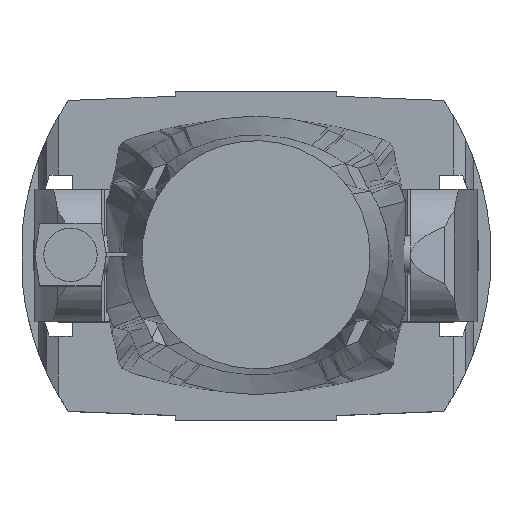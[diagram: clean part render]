
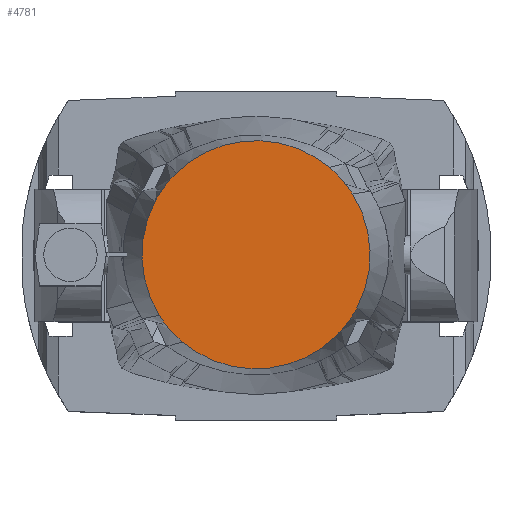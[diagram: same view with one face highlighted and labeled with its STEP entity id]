
A CAD part, top view. The second image highlights one B-rep face of the part: STEP entity #4781.
In plain terms, the highlighted planar face has unit normal (0, 0, 1).
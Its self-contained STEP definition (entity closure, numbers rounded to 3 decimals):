
#534=CIRCLE('',#5167,117.64);
#535=CIRCLE('',#5168,117.64);
#536=CIRCLE('',#5169,117.64);
#537=CIRCLE('',#5170,117.64);
#539=CIRCLE('',#5172,117.64);
#540=CIRCLE('',#5173,117.64);
#541=CIRCLE('',#5174,117.64);
#542=CIRCLE('',#5175,117.64);
#543=CIRCLE('',#5176,117.64);
#544=CIRCLE('',#5177,117.64);
#545=CIRCLE('',#5178,117.64);
#546=CIRCLE('',#5179,117.64);
#1732=ORIENTED_EDGE('',*,*,#2536,.T.);
#1733=ORIENTED_EDGE('',*,*,#2534,.T.);
#1734=ORIENTED_EDGE('',*,*,#2532,.T.);
#1735=ORIENTED_EDGE('',*,*,#2530,.T.);
#1736=ORIENTED_EDGE('',*,*,#2528,.T.);
#1737=ORIENTED_EDGE('',*,*,#2526,.T.);
#1738=ORIENTED_EDGE('',*,*,#2524,.T.);
#1739=ORIENTED_EDGE('',*,*,#2521,.T.);
#1740=ORIENTED_EDGE('',*,*,#2518,.T.);
#1741=ORIENTED_EDGE('',*,*,#2516,.T.);
#1742=ORIENTED_EDGE('',*,*,#2514,.T.);
#1743=ORIENTED_EDGE('',*,*,#2511,.T.);
#2511=EDGE_CURVE('',#2999,#3000,#534,.F.);
#2514=EDGE_CURVE('',#3001,#2999,#535,.F.);
#2516=EDGE_CURVE('',#3002,#3001,#536,.F.);
#2518=EDGE_CURVE('',#3003,#3002,#537,.F.);
#2521=EDGE_CURVE('',#3005,#3003,#539,.F.);
#2524=EDGE_CURVE('',#3006,#3005,#540,.F.);
#2526=EDGE_CURVE('',#3007,#3006,#541,.F.);
#2528=EDGE_CURVE('',#3008,#3007,#542,.F.);
#2530=EDGE_CURVE('',#3009,#3008,#543,.F.);
#2532=EDGE_CURVE('',#3010,#3009,#544,.F.);
#2534=EDGE_CURVE('',#3011,#3010,#545,.F.);
#2536=EDGE_CURVE('',#3000,#3011,#546,.F.);
#2999=VERTEX_POINT('',#8706);
#3000=VERTEX_POINT('',#8707);
#3001=VERTEX_POINT('',#8721);
#3002=VERTEX_POINT('',#8733);
#3003=VERTEX_POINT('',#8773);
#3005=VERTEX_POINT('',#8787);
#3006=VERTEX_POINT('',#8800);
#3007=VERTEX_POINT('',#8840);
#3008=VERTEX_POINT('',#8852);
#3009=VERTEX_POINT('',#8864);
#3010=VERTEX_POINT('',#8904);
#3011=VERTEX_POINT('',#8916);
#4007=EDGE_LOOP('',(#1732,#1733,#1734,#1735,#1736,#1737,#1738,#1739,#1740,
#1741,#1742,#1743));
#4358=FACE_BOUND('',#4007,.T.);
#4500=PLANE('',#5180);
#4781=ADVANCED_FACE('',(#4358),#4500,.F.);
#5167=AXIS2_PLACEMENT_3D('',#8705,#6115,#6116);
#5168=AXIS2_PLACEMENT_3D('',#8720,#6117,#6118);
#5169=AXIS2_PLACEMENT_3D('',#8732,#6119,#6120);
#5170=AXIS2_PLACEMENT_3D('',#8772,#6121,#6122);
#5172=AXIS2_PLACEMENT_3D('',#8786,#6125,#6126);
#5173=AXIS2_PLACEMENT_3D('',#8799,#6128,#6129);
#5174=AXIS2_PLACEMENT_3D('',#8839,#6130,#6131);
#5175=AXIS2_PLACEMENT_3D('',#8851,#6132,#6133);
#5176=AXIS2_PLACEMENT_3D('',#8863,#6134,#6135);
#5177=AXIS2_PLACEMENT_3D('',#8903,#6136,#6137);
#5178=AXIS2_PLACEMENT_3D('',#8915,#6138,#6139);
#5179=AXIS2_PLACEMENT_3D('',#8927,#6140,#6141);
#5180=AXIS2_PLACEMENT_3D('',#8928,#6142,#6143);
#6115=DIRECTION('',(0.,0.,-1.));
#6116=DIRECTION('',(1.,0.,0.));
#6117=DIRECTION('',(0.,0.,-1.));
#6118=DIRECTION('',(1.,0.,0.));
#6119=DIRECTION('',(0.,0.,-1.));
#6120=DIRECTION('',(1.,0.,0.));
#6121=DIRECTION('',(0.,0.,-1.));
#6122=DIRECTION('',(1.,0.,0.));
#6125=DIRECTION('',(0.,0.,-1.));
#6126=DIRECTION('',(1.,0.,0.));
#6128=DIRECTION('',(0.,0.,-1.));
#6129=DIRECTION('',(1.,0.,0.));
#6130=DIRECTION('',(0.,0.,-1.));
#6131=DIRECTION('',(1.,0.,0.));
#6132=DIRECTION('',(0.,0.,-1.));
#6133=DIRECTION('',(1.,0.,0.));
#6134=DIRECTION('',(0.,0.,-1.));
#6135=DIRECTION('',(1.,0.,0.));
#6136=DIRECTION('',(0.,0.,-1.));
#6137=DIRECTION('',(1.,0.,0.));
#6138=DIRECTION('',(0.,0.,-1.));
#6139=DIRECTION('',(1.,0.,0.));
#6140=DIRECTION('',(0.,0.,-1.));
#6141=DIRECTION('',(1.,0.,0.));
#6142=DIRECTION('',(0.,0.,-1.));
#6143=DIRECTION('',(-1.,0.,0.));
#8705=CARTESIAN_POINT('',(0.,0.,792.586));
#8706=CARTESIAN_POINT('',(-90.094,75.646,792.586));
#8707=CARTESIAN_POINT('',(-84.138,-82.219,792.586));
#8720=CARTESIAN_POINT('',(0.,0.,792.586));
#8721=CARTESIAN_POINT('',(-72.644,92.531,792.586));
#8732=CARTESIAN_POINT('',(0.,0.,792.586));
#8733=CARTESIAN_POINT('',(-62.448,99.696,792.586));
#8772=CARTESIAN_POINT('',(0.,0.,792.586));
#8773=CARTESIAN_POINT('',(54.868,104.061,792.586));
#8786=CARTESIAN_POINT('',(0.,0.,792.586));
#8787=CARTESIAN_POINT('',(65.465,97.742,792.586));
#8799=CARTESIAN_POINT('',(0.,0.,792.586));
#8800=CARTESIAN_POINT('',(84.138,82.219,792.586));
#8839=CARTESIAN_POINT('',(0.,0.,792.586));
#8840=CARTESIAN_POINT('',(90.094,-75.646,792.586));
#8851=CARTESIAN_POINT('',(0.,0.,792.586));
#8852=CARTESIAN_POINT('',(72.644,-92.531,792.586));
#8863=CARTESIAN_POINT('',(0.,0.,792.586));
#8864=CARTESIAN_POINT('',(62.553,-99.631,792.586));
#8903=CARTESIAN_POINT('',(0.,0.,792.586));
#8904=CARTESIAN_POINT('',(-54.759,-104.118,792.586));
#8915=CARTESIAN_POINT('',(0.,0.,792.586));
#8916=CARTESIAN_POINT('',(-65.465,-97.742,792.586));
#8927=CARTESIAN_POINT('',(0.,0.,792.586));
#8928=CARTESIAN_POINT('',(0.,0.,792.586));
